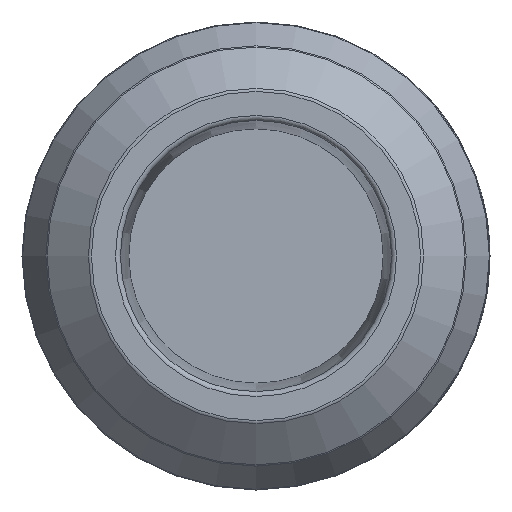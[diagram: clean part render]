
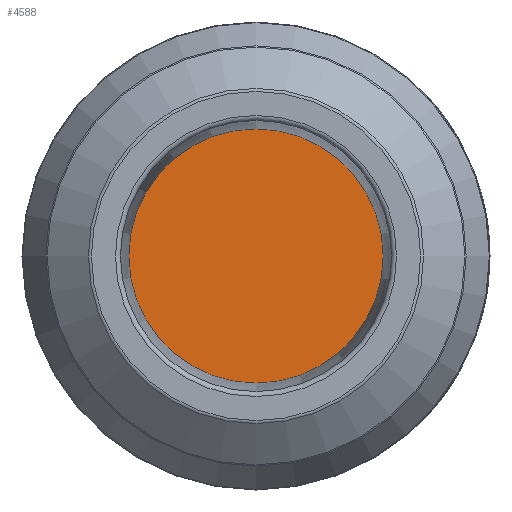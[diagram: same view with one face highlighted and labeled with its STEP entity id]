
A CAD part, left-side view. The second image highlights one B-rep face of the part: STEP entity #4588.
In plain terms, the highlighted planar face has unit normal (-1, 0, 0).
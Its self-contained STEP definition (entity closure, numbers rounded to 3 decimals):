
#91=PLANE('',#4845);
#356=CIRCLE('',#4844,6.469);
#549=ORIENTED_EDGE('',*,*,#1497,.T.);
#1497=EDGE_CURVE('',#1972,#1972,#356,.T.);
#1972=VERTEX_POINT('',#6291);
#2713=EDGE_LOOP('',(#549));
#2956=FACE_BOUND('',#2713,.T.);
#4588=ADVANCED_FACE('',(#2956),#91,.F.);
#4844=AXIS2_PLACEMENT_3D('',#6290,#5203,#5204);
#4845=AXIS2_PLACEMENT_3D('',#6292,#5205,#5206);
#5203=DIRECTION('',(-1.,0.,0.));
#5204=DIRECTION('',(0.,0.,1.));
#5205=DIRECTION('',(1.,0.,0.));
#5206=DIRECTION('',(0.,0.,-1.));
#6290=CARTESIAN_POINT('',(6.35,0.,0.));
#6291=CARTESIAN_POINT('',(6.35,0.,6.469));
#6292=CARTESIAN_POINT('',(6.35,0.,0.));
